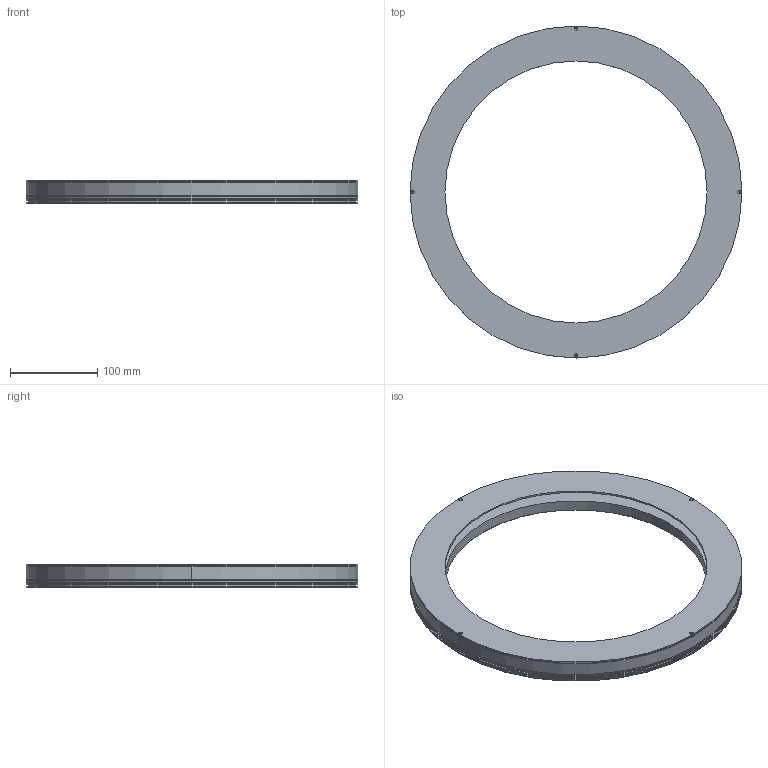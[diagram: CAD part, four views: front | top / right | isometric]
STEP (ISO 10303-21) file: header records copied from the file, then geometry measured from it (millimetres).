
FILE_DESCRIPTION((''),'2;1');
FILE_NAME('TRL-140-0','2020-03-28T',('ASUS'),(''),'PRO/ENGINEER BY PARAMETRIC TECHNOLOGY CORPORATION, 2008380','PRO/ENGINEER BY PARAMETRIC TECHNOLOGY CORPORATION, 2008380','');
FILE_SCHEMA(('CONFIG_CONTROL_DESIGN'));
Length unit declared in the file: millimetre
Products named in the file (1): TRL-140-0
Bounding box: 380 x 380 x 27 mm (x, y, z)
Volume: 672001.2 mm3; surface area: 239184.2 mm2
Topology: 1 solids, 1 shells, 83 faces, 186 edges, 118 vertices
Faces by surface type: cylinder 46, plane 23, cone 14
Entity records: 2412 total; most frequent: DIRECTION 470, CARTESIAN_POINT 387, ORIENTED_EDGE 372, AXIS2_PLACEMENT_3D 201, EDGE_CURVE 186, VERTEX_POINT 118, CIRCLE 118, EDGE_LOOP 106
